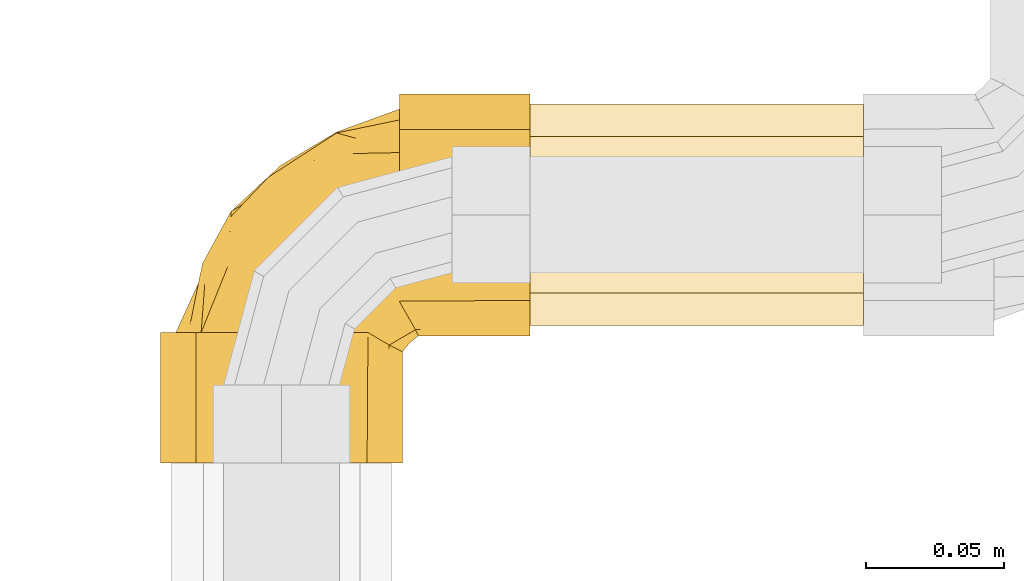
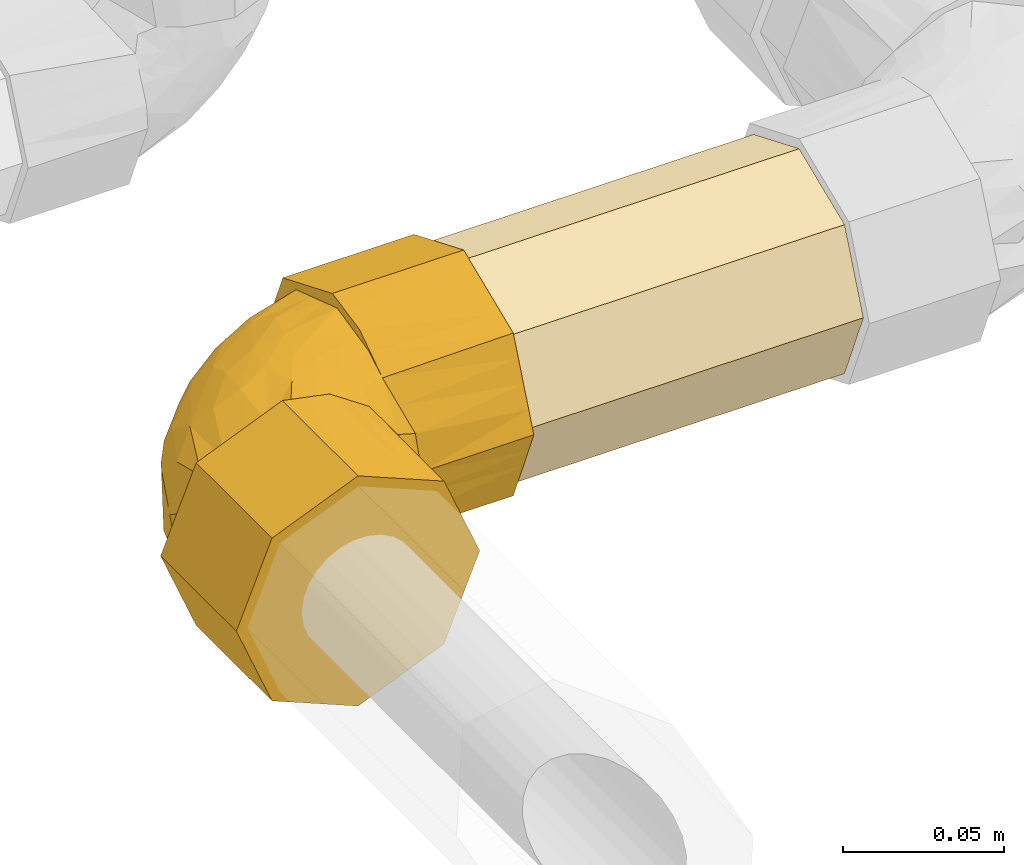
# One storey, part 273 of 652: 2 coverings.
"""IFC2X3 building model written with IfcOpenShell, lengths in millimetres."""

from ifc_helpers import new_model, entity, si_unit, converted_unit, direction, frame, origin, place, context, subcontext, project, spatial, faceted_brep, material, type_object, element, save


model = new_model("IFC2X3")

# Units and contexts
model_context = context("Model", 3, precision=0.01, world=frame((0.0, 0.0, 308426.39999999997)), true_north=direction((6.123233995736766e-17, 1.0)))
plan_context = context("Plan", 3, precision=0.01, world=frame((0.0, 0.0, 308426.39999999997)), true_north=direction((6.123233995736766e-17, 1.0)))
body_context = subcontext(model_context, "Body", "Model", "MODEL_VIEW")
ifc_project = project(units=[si_unit("LENGTHUNIT", "METRE", prefix="MILLI"), si_unit("AREAUNIT", "SQUARE_METRE"), si_unit("VOLUMEUNIT", "CUBIC_METRE"), converted_unit("PLANEANGLEUNIT", "DEGREE", entity("IfcPlaneAngleMeasure", 0.017453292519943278), si_unit("PLANEANGLEUNIT", "RADIAN"), dimensions=[0, 0, 0, 0, 0, 0, 0])], contexts=[model_context, plan_context])

# Site, building, storey
site_placement = place(None, origin())
site = spatial("IfcSite", under=ifc_project, at=site_placement, Name="Default", CompositionType="ELEMENT")
building_placement = place(site_placement, origin())
building = spatial("IfcBuilding", under=site, at=building_placement, CompositionType="ELEMENT")
storey_placement = place(building_placement, frame((0.0, 0.0, 1730.6999999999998)))
storey = spatial("IfcBuildingStorey", under=building, at=storey_placement, Name="EG_Produktion_FFB", CompositionType="ELEMENT", Elevation=1730.6999999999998)

# Coverings
ifc_material = material(Name="Dämmung - Armaflex-Schlauch")
covering_type = type_object("IfcCoveringType", Name="Rohrdämmung außen:Armaflex-Schlauch", PredefinedType="INSULATION")
covering_1_placement = place(storey_placement, frame((79411.81274770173, 78537.13483172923, 3558.4047277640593)))
element("IfcCovering", 1, at=covering_1_placement, inside=storey, type_object=covering_type, material=ifc_material, Name="Rohrdämmung außen:Armaflex-Schlauch", ObjectType="Rohrdämmung außen:Armaflex-Schlauch", PredefinedType="INSULATION", context=body_context, shape_type="Brep", body=[
    faceted_brep([(120.56000000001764, 13.311000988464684, 69.8795434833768), (120.56000000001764, 10.382068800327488, 62.80847567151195), (120.56000000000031, 7.453136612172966, 55.737407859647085), (120.56000000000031, 4.524204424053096, 48.66634004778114), (120.56000000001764, 1.5952722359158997, 41.595272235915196), (120.56000000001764, 4.524204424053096, 34.52420442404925), (120.56000000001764, 7.453136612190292, 27.453136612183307), (120.56000000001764, 10.382068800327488, 20.382068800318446), (120.56000000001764, 13.311000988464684, 13.311000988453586), (120.56000000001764, 20.382068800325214, 10.382068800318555), (120.56000000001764, 27.45313661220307, 7.453136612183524), (120.56000000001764, 34.524204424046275, 4.524204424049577), (120.56000000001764, 41.595272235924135, 1.595272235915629), (120.56000000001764, 47.35188103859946, 3.979737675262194), (120.56000000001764, 55.737407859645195, 7.453136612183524), (120.56000000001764, 62.80847567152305, 10.382068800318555), (120.56000000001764, 69.87954348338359, 13.311000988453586), (120.56000000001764, 72.80847567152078, 20.382068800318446), (120.56000000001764, 75.73740785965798, 27.453136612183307), (120.56000000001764, 78.66634004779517, 34.52420442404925), (120.56000000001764, 81.59527223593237, 41.595272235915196), (120.56000000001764, 79.21080679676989, 47.35188103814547), (120.56000000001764, 75.73740785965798, 55.737407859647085), (120.56000000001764, 72.80847567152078, 62.80847567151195), (120.56000000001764, 69.87954348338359, 69.8795434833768), (120.56000000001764, 62.80847567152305, 72.80847567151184), (120.56000000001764, 55.737407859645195, 75.73740785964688), (120.56000000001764, 48.666340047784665, 78.66634004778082), (120.56000000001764, 41.595272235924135, 81.59527223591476), (120.56000000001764, 35.83866343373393, 79.21080679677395), (120.56000000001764, 27.45313661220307, 75.73740785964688), (120.56000000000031, 20.382068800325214, 72.80847567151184), (0.0, 69.87954348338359, 69.87954348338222), (0.0, 72.80847567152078, 62.808475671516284), (0.0, 75.73740785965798, 55.73740785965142), (0.0, 78.66634004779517, 48.666340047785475), (0.0, 81.59527223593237, 41.59527223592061), (0.0, 76.82634135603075, 30.082054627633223), (0.0, 73.35294241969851, 21.696527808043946), (0.0, 69.87954348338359, 13.311000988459), (0.0, 62.80847567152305, 10.382068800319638), (0.0, 55.737407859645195, 7.45313661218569), (0.0, 48.666340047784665, 4.52420442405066), (0.0, 41.595272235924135, 1.5952722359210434), (0.0, 30.08205458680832, 6.364203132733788), (0.0, 21.69652778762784, 9.83760206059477), (0.0, 13.311000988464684, 13.311000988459), (0.0, 10.382068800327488, 20.382068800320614), (0.0, 7.453136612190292, 27.45313661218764), (0.0, 4.524204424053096, 34.524204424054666), (0.0, 1.5952722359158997, 41.59527223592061), (0.0, 6.364203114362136, 53.10848984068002), (0.0, 9.837602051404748, 61.49401666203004), (0.0, 13.311000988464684, 69.87954348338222), (0.0, 20.382068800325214, 72.808475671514), (0.0, 27.45313661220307, 75.73740785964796), (0.0, 34.524204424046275, 78.66634004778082), (0.0, 41.595272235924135, 81.59527223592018), (0.0, 53.10848984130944, 76.82634135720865), (0.0, 61.49401666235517, 73.3529424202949)], [[[0, 1, 2, 3, 4, 5, 6, 7, 8, 9, 10, 11, 12, 13, 14, 15, 16, 17, 18, 19, 20, 21, 22, 23, 24, 25, 26, 27, 28, 29, 30, 31]], [[32, 33, 34, 35, 36, 37, 38, 39, 40, 41, 42, 43, 44, 45, 46, 47, 48, 49, 50, 51, 52, 53, 54, 55, 56, 57, 58, 59]], [[47, 46, 8, 7, 6, 5, 4, 50, 49, 48]], [[44, 43, 12, 11, 10, 9, 8, 46, 45]], [[41, 40, 39, 16, 15, 14, 13, 12, 43, 42]], [[16, 39, 38, 37, 36, 20, 19, 18, 17]], [[34, 33, 32, 24, 23, 22, 21, 20, 36, 35]], [[24, 32, 59, 58, 57, 28, 27, 26, 25]], [[55, 54, 53, 0, 31, 30, 29, 28, 57, 56]], [[0, 53, 52, 51, 50, 4, 3, 2, 1]]]),
])
covering_2_placement = place(storey_placement, frame((79276.77747546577, 78489.01010396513, 3645.3152722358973)))
element("IfcCovering", 2, at=covering_2_placement, inside=storey, type_object=covering_type, material=ifc_material, Name="Rohrdämmung außen:Armaflex-Schlauch", ObjectType="Rohrdämmung außen:Armaflex-Schlauch", PredefinedType="INSULATION", context=body_context, shape_type="Brep", body=[
    faceted_brep([(87.85527223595, 89.72000000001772, -89.0352722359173), (87.85527223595, 81.24510847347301, -87.3256025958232), (87.85527223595, 72.77021694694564, -85.615932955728), (87.85527223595, 65.62819273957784, -80.76173096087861), (87.85527223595, 58.48616853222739, -75.9075289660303), (87.85527223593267, 67.59976223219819, -80.04887855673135), (87.85527223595, 76.71335593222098, -84.19022814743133), (87.85527223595, 86.71350835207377, -85.31527223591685), (87.85527223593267, 94.401273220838, -81.77341658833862), (87.85527223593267, 102.08903808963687, -78.2315609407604), (87.85527223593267, 110.44396474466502, -74.38233497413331), (87.85527223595, 118.79889139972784, -70.53310900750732), (87.85527223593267, 123.36271409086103, -57.92419062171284), (87.85527223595, 127.92653678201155, -45.31527223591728), (87.85527223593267, 123.99884456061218, -37.43329692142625), (87.85527223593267, 120.07115233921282, -29.551321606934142), (87.85527223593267, 116.14346011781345, -21.669346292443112), (87.85527223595, 112.21576789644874, -13.787370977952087), (87.85527223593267, 102.97856578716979, -10.71868256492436), (87.85527223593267, 94.84603706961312, -8.016977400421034), (87.85527223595, 86.71350835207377, -5.315272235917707), (87.85527223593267, 82.95558245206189, -6.153990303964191), (87.85527223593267, 79.19765655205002, -6.992708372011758), (87.85527223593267, 73.18731131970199, -8.334135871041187), (87.85527223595, 67.17696608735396, -9.675563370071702), (87.85527223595, 58.48616853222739, -14.723015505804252), (87.85527223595, 65.62819273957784, -9.86881351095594), (87.85527223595, 72.77021694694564, -5.014611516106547), (87.85527223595, 81.24510847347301, -3.304941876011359), (87.85527223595, 89.72000000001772, -1.5952722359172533), (87.85527223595, 98.12450894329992, -5.076533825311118), (87.85527223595, 105.17735423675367, -7.997917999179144), (87.85527223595, 112.90603135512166, -11.199240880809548), (87.85527223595, 120.63470847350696, -14.400563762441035), (87.85527223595, 123.83603135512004, -22.129240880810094), (87.85527223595, 127.03735423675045, -29.857917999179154), (87.85527223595, 129.9587389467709, -36.910764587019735), (87.85527223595, 133.44000000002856, -45.31527223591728), (87.85527223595, 129.95873845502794, -53.71978107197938), (87.85527223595, 127.03735423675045, -60.772626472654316), (87.85527223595, 123.83603135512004, -68.50130359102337), (87.85527223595, 120.63470847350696, -76.22998070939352), (87.85527223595, 112.90603135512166, -79.43130359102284), (87.85527223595, 105.17735423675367, -82.6326264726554), (87.85527223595, 98.12450754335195, -85.55401122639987), (135.03527223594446, 58.80529152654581, -14.400563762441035), (135.03527223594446, 55.603968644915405, -22.129240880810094), (135.03527223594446, 52.402645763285, -29.857917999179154), (135.03527223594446, 49.2013228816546, -37.586595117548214), (135.03527223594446, 46.0, -45.31527223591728), (135.03527223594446, 49.481260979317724, -53.71977970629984), (135.03527223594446, 52.402645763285, -60.772626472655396), (135.03527223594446, 55.603968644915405, -68.50130359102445), (135.03527223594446, 58.80529152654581, -76.22998070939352), (135.03527223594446, 66.53396864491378, -79.43130359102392), (135.03527223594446, 74.26264576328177, -82.6326264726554), (135.03527223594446, 81.99132288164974, -85.8339493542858), (135.03527223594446, 89.72000000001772, -89.0352722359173), (135.03527223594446, 97.4486771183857, -85.8339493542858), (135.03527223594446, 105.17735423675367, -82.6326264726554), (135.03527223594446, 112.90603135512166, -79.43130359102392), (135.03527223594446, 120.63470847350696, -76.22998070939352), (135.03527223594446, 123.83603135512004, -68.50130359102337), (135.03527223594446, 127.03735423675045, -60.772626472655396), (135.03527223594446, 130.23867711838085, -53.04394935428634), (135.03527223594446, 133.44000000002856, -45.31527223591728), (135.03527223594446, 130.23867711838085, -37.586595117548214), (135.03527223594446, 127.03735423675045, -29.857917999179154), (135.03527223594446, 123.83603135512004, -22.129240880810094), (135.03527223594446, 120.63470847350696, -14.400563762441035), (135.03527223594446, 113.58186350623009, -11.479179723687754), (135.03527223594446, 106.52901853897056, -8.55779568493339), (135.03527223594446, 98.12450926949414, -5.076533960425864), (135.03527223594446, 89.72000000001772, -1.5952722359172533), (135.03527223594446, 81.31549241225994, -5.076533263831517), (135.03527223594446, 74.26264576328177, -7.997917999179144), (135.03527223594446, 66.53396864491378, -11.199240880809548), (94.75489207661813, 46.0, -45.31527223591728), (93.70357391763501, 48.18629937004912, -31.662795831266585), (90.7794230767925, 53.336233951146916, -23.192905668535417), (93.56571370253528, 48.410751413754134, -55.29456727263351), (92.37653532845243, 50.8215028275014, -65.27386230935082), (90.11590378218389, 54.65383567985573, -70.59069563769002), (45.31527223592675, 47.180000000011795, -89.03527223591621), (36.910763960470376, 47.180000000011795, -85.55401092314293), (29.857917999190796, 47.180000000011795, -82.63262647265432), (22.129240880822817, 47.180000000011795, -79.43130359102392), (14.40056376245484, 47.180000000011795, -76.22998070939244), (11.199240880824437, 47.180000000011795, -68.50130359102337), (7.9979179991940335, 47.180000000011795, -60.772626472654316), (5.076533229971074, 47.180000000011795, -53.71977974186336), (1.5952722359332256, 47.180000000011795, -45.3152722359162), (5.076533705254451, 47.180000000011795, -36.9107635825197), (7.9979179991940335, 47.180000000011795, -29.857917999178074), (11.199240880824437, 47.180000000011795, -22.12924088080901), (14.40056376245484, 47.180000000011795, -14.400563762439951), (22.129240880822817, 47.180000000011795, -11.199240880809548), (29.857917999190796, 47.17999999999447, -7.997917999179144), (36.91076423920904, 47.180000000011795, -5.076533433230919), (45.31527223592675, 47.180000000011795, -1.5952722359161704), (53.79016348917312, 47.180000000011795, -3.304941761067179), (62.26505474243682, 47.180000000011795, -5.014611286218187), (69.4070792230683, 47.180000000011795, -9.8688133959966), (76.54910370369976, 47.180000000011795, -14.723015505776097), (67.43551000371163, 47.180000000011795, -10.58166591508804), (58.32191630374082, 47.180000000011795, -6.440316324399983), (48.321763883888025, 47.180000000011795, -5.315272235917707), (40.63317524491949, 47.180000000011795, -8.855811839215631), (32.94458660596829, 47.180000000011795, -12.396351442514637), (24.595238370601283, 47.180000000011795, -16.241166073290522), (16.24589013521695, 47.180000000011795, -20.085980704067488), (11.677312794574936, 47.180000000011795, -32.7006264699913), (7.108735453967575, 47.180000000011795, -45.31527223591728), (10.919813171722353, 47.180000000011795, -52.9670857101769), (14.730890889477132, 47.180000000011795, -60.61889918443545), (18.768817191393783, 47.180000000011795, -68.72617517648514), (22.80674349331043, 47.180000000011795, -76.83345116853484), (32.05805064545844, 47.180000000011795, -79.90881347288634), (40.18990726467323, 47.180000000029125, -82.61204285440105), (48.321763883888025, 47.180000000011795, -85.31527223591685), (52.07969022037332, 47.180000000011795, -84.47655407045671), (55.8376165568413, 47.180000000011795, -83.63783590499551), (61.847961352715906, 47.180000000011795, -82.2964085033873), (67.85830614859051, 47.180000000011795, -80.95498110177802), (76.54910370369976, 47.180000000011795, -75.90752896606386), (69.4070792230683, 47.180000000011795, -80.76173107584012), (62.265054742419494, 47.180000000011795, -85.61593318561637), (53.79016348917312, 47.180000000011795, -87.32560271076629), (14.40056376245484, 0.0, -14.400563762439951), (11.479179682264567, 0.0, -21.453408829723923), (8.55779560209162, 0.0, -28.506253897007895), (5.07653391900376, 0.0, -36.910763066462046), (1.5952722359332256, 0.0, -45.3152722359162), (4.796595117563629, 0.0, -53.04394935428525), (7.9979179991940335, 0.0, -60.772626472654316), (11.199240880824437, 0.0, -68.50130359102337), (14.40056376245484, 0.0, -76.22998070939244), (21.453409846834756, 0.0, -79.15136521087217), (28.506255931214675, 0.0, -82.0727497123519), (36.91076408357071, 0.0, -85.55401097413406), (45.31527223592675, 0.0, -89.03527223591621), (53.71977970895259, 0.0, -85.5540112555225), (60.77262647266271, 0.0, -82.63262647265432), (68.50130359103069, 0.0, -79.43130359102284), (76.22998070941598, 0.0, -76.22998070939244), (79.43130359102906, 0.0, -68.50130359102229), (82.63262647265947, 0.0, -60.772626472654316), (85.83394935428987, 0.0, -53.04394935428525), (89.0352722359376, 0.0, -45.3152722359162), (85.55401125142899, 0.0, -36.91076475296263), (82.63262647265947, 0.0, -29.857917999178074), (79.43130359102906, 0.0, -22.12924088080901), (76.22998070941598, 0.0, -14.400563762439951), (68.50130359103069, 0.0, -11.199240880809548), (60.77262647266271, 0.0, -7.9979179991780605), (53.71978150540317, 0.0, -5.076533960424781), (45.31527223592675, 0.0, -1.5952722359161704), (37.58659511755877, 0.0, -4.796595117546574), (29.857917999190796, 0.0, -7.9979179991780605), (22.129240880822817, 0.0, -11.199240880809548), (86.62452082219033, 41.46955853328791, -35.33597719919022), (89.03527223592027, 40.28038015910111, -45.31527223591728), (84.21376940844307, 42.65873690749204, -25.35668216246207), (80.38143655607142, 44.91936845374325, -20.039848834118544), (86.84897286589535, 41.33169831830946, -58.96774864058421), (81.69903828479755, 44.25584915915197, -67.43763880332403), (66.03128520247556, 102.49262153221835, -12.76466821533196), (55.76616911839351, 83.60598863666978, -7.785872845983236), (70.75443349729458, 95.30418911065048, -8.104982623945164), (53.30419653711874, 71.60753704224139, -6.007022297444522), (55.83084240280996, 59.43767565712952, -5.315272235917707), (56.9275078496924, 61.22785128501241, -5.315272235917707), (60.133714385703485, 66.4616012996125, -5.315272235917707), (63.339920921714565, 71.69535131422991, -5.315272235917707), (67.29968041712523, 83.6692152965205, -5.864313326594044), (72.12613198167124, 117.40427550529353, -24.578220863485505), (70.74159626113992, 111.85790663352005, -18.40912680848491), (25.809725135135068, 70.85529611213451, -18.919741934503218), (32.33216175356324, 67.52213053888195, -12.401297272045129), (26.756767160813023, 83.79232970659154, -27.82104943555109), (17.558758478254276, 64.52790148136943, -25.71861098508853), (45.32915426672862, 90.43203439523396, -14.90582887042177), (55.644074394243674, 102.6618732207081, -17.607035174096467), (40.24215163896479, 94.87008754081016, -22.306000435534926), (44.412957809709, 80.53327920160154, -10.642924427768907), (72.64450076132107, 118.67320029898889, -45.31527223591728), (65.21420834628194, 119.31424049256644, -35.03711460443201), (26.986586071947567, 89.03482051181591, -35.87780622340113), (16.736109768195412, 72.15163275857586, -35.333219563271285), (41.63565492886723, 66.97723217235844, -7.976739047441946), (57.10810929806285, 109.3213085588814, -23.66945671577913), (40.52288095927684, 103.31508755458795, -35.14732952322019), (44.54577280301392, 103.30286827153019, -28.005805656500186), (27.01218633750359, 90.91319084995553, -45.31527223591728), (15.314765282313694, 65.21083649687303, -45.31527223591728), (57.433729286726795, 109.41986381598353, -45.31527223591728), (42.22295781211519, 100.16652733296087, -45.31527223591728), (52.624635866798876, 54.203925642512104, -5.315272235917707), (68.57367143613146, 74.90155815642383, -5.315272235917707), (73.80742195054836, 78.10776499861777, -5.315272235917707), (80.83134709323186, 82.41063667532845, -5.315272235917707), (84.34330966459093, 84.56207251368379, -5.315272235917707), (63.30579836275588, 56.25886182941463, -6.515026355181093), (67.67516595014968, 62.03791845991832, -6.5236047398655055), (78.51514507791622, 70.10566319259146, -6.838807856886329), (69.99439310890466, 68.23490048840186, -5.9514248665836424), (75.12919781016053, 62.99433546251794, -8.011933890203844), (71.60390920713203, 54.79248262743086, -9.284155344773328), (91.62419216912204, 43.41108006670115, -45.31527223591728), (85.77416460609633, 48.835072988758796, -21.350681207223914), (79.8908501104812, 55.14442201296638, -12.878665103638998), (82.00241116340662, 64.13683945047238, -9.509001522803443), (72.04093705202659, 59.90607457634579, -82.61861054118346), (80.24279019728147, 63.431363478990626, -81.34638912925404), (79.89084918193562, 55.144422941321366, -77.7518803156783), (73.80742195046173, 78.10776499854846, -85.31527223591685), (75.59759657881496, 79.20442983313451, -85.31527223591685), (80.83134709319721, 82.41063667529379, -85.31527223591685), (86.2001997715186, 49.26110760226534, -69.27986274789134), (70.89843373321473, 53.03286108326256, -81.12154256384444), (64.92960889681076, 56.520126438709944, -83.79173653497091), (72.99735331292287, 67.36010606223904, -84.10693976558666), (66.80037051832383, 65.04087848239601, -84.67911968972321), (63.339920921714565, 71.69535131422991, -85.31527223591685), (78.77640980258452, 71.7294735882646, -84.1155181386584), (68.57367143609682, 74.90155815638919, -85.31527223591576), (50.47319987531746, 50.69196282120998, -85.31527223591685), (52.62463586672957, 54.20392564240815, -85.31527223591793), (56.92750784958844, 61.2278512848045, -85.31527223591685), (60.1337143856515, 66.46160129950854, -85.31527223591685), (22.969254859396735, 64.511491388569, -71.91299702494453), (17.40417724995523, 62.89385041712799, -65.70887595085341), (25.591722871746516, 77.8901893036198, -66.82852594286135), (32.29505072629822, 93.66064829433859, -58.70673693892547), (39.02295376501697, 94.88356710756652, -67.02710881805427), (65.2537440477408, 119.66946820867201, -54.360922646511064), (17.55001282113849, 72.86730349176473, -56.77989566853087), (63.42629653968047, 81.73250305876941, -84.62314247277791), (68.04928127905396, 93.40320660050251, -82.65089858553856), (51.42568408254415, 79.27054278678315, -82.84333555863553), (54.491451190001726, 90.62025871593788, -79.98462918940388), (39.73102871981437, 64.27994381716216, -82.52571013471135), (51.36097132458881, 67.7311159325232, -84.7659727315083), (44.59903951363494, 89.7102291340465, -75.71969341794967), (32.53527655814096, 69.00287377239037, -77.86164220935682), (32.28865878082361, 79.38190884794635, -72.95611199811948), (63.80538150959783, 108.75014958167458, -71.98655839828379), (68.24550413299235, 102.99203326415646, -78.28625244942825), (51.50541448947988, 108.54573737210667, -62.66375597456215), (70.3990572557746, 118.4495227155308, -63.131441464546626), (44.975974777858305, 107.5899868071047, -53.59968096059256)], [[[0, 1, 2, 3, 4, 5, 6, 7, 8, 9, 10, 11, 12, 13, 14, 15, 16, 17, 18, 19, 20, 21, 22, 23, 24, 25, 26, 27, 28, 29, 30, 31, 32, 33, 34, 35, 36, 37, 38, 39, 40, 41, 42, 43, 44]], [[45, 46, 47, 48, 49, 50, 51, 52, 53, 54, 55, 56, 57, 58, 59, 60, 61, 62, 63, 64, 65, 66, 67, 68, 69, 70, 71, 72, 73, 74, 75, 76]], [[74, 27, 76, 75]], [[77, 48, 78]], [[78, 47, 79]], [[48, 77, 49]], [[25, 79, 46]], [[27, 74, 28]], [[45, 26, 25]], [[48, 47, 78]], [[73, 28, 74]], [[73, 29, 28]], [[76, 27, 26]], [[26, 45, 76]], [[25, 46, 45]], [[79, 47, 46]], [[30, 29, 73, 72, 71, 70, 69, 33, 32, 31]], [[33, 69, 68, 67, 66, 65, 37, 36, 35, 34]], [[0, 44, 43, 42, 41, 61, 60, 59, 58, 57]], [[63, 62, 61, 41, 40, 39, 38, 37, 65, 64]], [[3, 54, 53]], [[57, 56, 0]], [[80, 51, 50]], [[55, 2, 1]], [[55, 54, 2]], [[52, 81, 82, 4]], [[50, 77, 80]], [[2, 54, 3]], [[1, 56, 55]], [[53, 4, 3]], [[51, 80, 81]], [[0, 56, 1]], [[50, 49, 77]], [[52, 4, 53]], [[52, 51, 81]], [[83, 84, 85, 86, 87, 88, 89, 90, 91, 92, 93, 94, 95, 96, 97, 98, 99, 100, 101, 102, 103, 104, 105, 106, 107, 108, 109, 110, 111, 112, 113, 114, 115, 116, 117, 118, 119, 120, 121, 122, 123, 124, 125, 126, 127]], [[128, 129, 130, 131, 132, 133, 134, 135, 136, 137, 138, 139, 140, 141, 142, 143, 144, 145, 146, 147, 148, 149, 150, 151, 152, 153, 154, 155, 156, 157, 158, 159]], [[130, 129, 128, 95, 94, 93, 92, 91, 132, 131]], [[95, 128, 159, 158, 157, 156, 99, 98, 97, 96]], [[102, 153, 152]], [[160, 150, 149]], [[99, 156, 100]], [[154, 153, 101, 155]], [[155, 101, 100]], [[149, 161, 160]], [[101, 153, 102]], [[151, 162, 163, 103]], [[152, 103, 102]], [[150, 160, 162]], [[156, 155, 100]], [[149, 148, 161]], [[151, 103, 152]], [[151, 150, 162]], [[125, 144, 143]], [[140, 83, 127]], [[161, 147, 164]], [[164, 146, 165]], [[147, 161, 148]], [[144, 125, 124]], [[126, 141, 127]], [[143, 142, 141, 126]], [[124, 145, 144]], [[140, 127, 141]], [[147, 146, 164]], [[143, 126, 125]], [[124, 165, 145]], [[165, 146, 145]], [[84, 83, 140, 139, 138, 137, 136, 87, 86, 85]], [[87, 136, 135, 134, 133, 132, 91, 90, 89, 88]], [[166, 167, 168]], [[169, 170, 171, 172, 173]], [[19, 168, 174]], [[17, 166, 18]], [[175, 176, 16]], [[177, 109, 178]], [[179, 180, 177]], [[181, 182, 183]], [[166, 181, 184]], [[14, 185, 186]], [[187, 188, 179]], [[184, 189, 167]], [[182, 181, 166]], [[176, 175, 190]], [[186, 191, 192]], [[166, 184, 167]], [[169, 174, 167]], [[188, 193, 194]], [[110, 109, 177]], [[190, 175, 186]], [[175, 16, 15]], [[186, 175, 15]], [[176, 190, 182]], [[186, 15, 14]], [[186, 195, 191]], [[196, 193, 187]], [[179, 183, 192]], [[184, 178, 189]], [[191, 195, 196]], [[178, 109, 108]], [[183, 177, 181]], [[178, 108, 189]], [[181, 177, 178]], [[189, 108, 107]], [[107, 106, 197, 170]], [[170, 169, 107]], [[169, 173, 174]], [[167, 189, 169]], [[107, 169, 189]], [[174, 173, 198, 199, 200, 201, 20]], [[174, 20, 19]], [[168, 19, 18]], [[166, 168, 18]], [[174, 168, 167]], [[111, 180, 188]], [[110, 177, 180]], [[194, 112, 111]], [[178, 184, 181]], [[188, 180, 179]], [[111, 110, 180]], [[179, 191, 187]], [[111, 188, 194]], [[187, 191, 196]], [[193, 188, 187]], [[192, 183, 190]], [[177, 183, 179]], [[166, 17, 176]], [[183, 182, 190]], [[166, 176, 182]], [[17, 16, 176]], [[185, 14, 13]], [[185, 195, 186]], [[186, 192, 190]], [[179, 192, 191]], [[172, 202, 203]], [[204, 205, 206]], [[23, 22, 21, 20, 201, 200, 199]], [[202, 104, 207]], [[208, 77, 78]], [[203, 173, 172]], [[203, 202, 207]], [[105, 104, 202]], [[163, 162, 209]], [[203, 205, 173]], [[197, 106, 105, 171, 170]], [[207, 206, 203]], [[210, 207, 103]], [[104, 103, 207]], [[160, 161, 208]], [[210, 163, 209]], [[206, 207, 210]], [[210, 25, 211]], [[204, 211, 24]], [[209, 25, 210]], [[78, 79, 25, 209]], [[105, 202, 171]], [[210, 103, 163]], [[78, 209, 162]], [[205, 203, 206]], [[172, 171, 202]], [[206, 211, 204]], [[204, 198, 205]], [[204, 24, 23]], [[210, 211, 206]], [[199, 204, 23]], [[198, 204, 199]], [[198, 173, 205]], [[25, 24, 211]], [[78, 160, 208]], [[78, 162, 160]], [[212, 213, 214]], [[6, 215, 216, 217, 7]], [[82, 218, 214]], [[219, 123, 220]], [[214, 213, 4]], [[5, 4, 213]], [[221, 222, 223]], [[208, 80, 77]], [[218, 124, 214]], [[161, 164, 208]], [[214, 124, 219]], [[6, 5, 224]], [[82, 81, 218]], [[224, 5, 213]], [[225, 224, 221]], [[220, 222, 212]], [[122, 121, 120, 119, 226, 227, 228]], [[164, 165, 124, 218]], [[221, 223, 225]], [[213, 212, 221]], [[221, 224, 213]], [[6, 224, 215]], [[214, 4, 82]], [[164, 218, 81]], [[222, 221, 212]], [[225, 215, 224]], [[212, 219, 220]], [[220, 229, 222]], [[220, 123, 122]], [[214, 219, 212]], [[228, 220, 122]], [[229, 220, 228]], [[229, 223, 222]], [[124, 123, 219]], [[164, 80, 208]], [[164, 81, 80]], [[230, 115, 231]], [[232, 233, 234]], [[12, 235, 13]], [[113, 194, 236]], [[237, 216, 215, 225, 223]], [[236, 232, 231]], [[238, 239, 240]], [[230, 231, 232]], [[118, 241, 242]], [[243, 244, 245]], [[246, 10, 247]], [[116, 244, 117]], [[244, 243, 240]], [[244, 239, 241]], [[248, 249, 246]], [[247, 238, 240]], [[237, 242, 239]], [[232, 236, 233]], [[250, 193, 196, 195]], [[113, 236, 114]], [[233, 248, 234]], [[113, 112, 194]], [[193, 236, 194]], [[236, 193, 233]], [[233, 250, 248]], [[231, 115, 114]], [[248, 250, 235]], [[248, 235, 249]], [[235, 250, 195]], [[235, 195, 185, 13]], [[235, 12, 249]], [[12, 11, 249]], [[246, 249, 11]], [[10, 9, 247]], [[234, 246, 243]], [[246, 234, 248]], [[245, 234, 243]], [[246, 11, 10]], [[247, 9, 238]], [[243, 246, 247]], [[238, 9, 8]], [[8, 7, 217, 216]], [[216, 237, 8]], [[237, 223, 242]], [[239, 238, 237]], [[8, 237, 238]], [[242, 223, 229, 228, 227, 226, 119]], [[242, 119, 118]], [[241, 118, 117]], [[244, 241, 117]], [[242, 241, 239]], [[244, 240, 239]], [[247, 240, 243]], [[193, 250, 233]], [[236, 231, 114]], [[230, 232, 245]], [[244, 116, 230]], [[234, 245, 232]], [[244, 230, 245]], [[116, 115, 230]]]),
])

save(model, "model.ifc")
